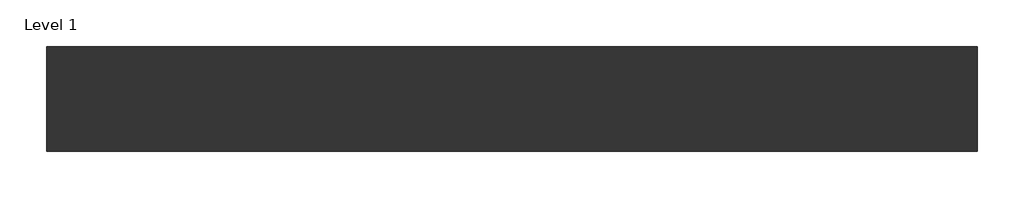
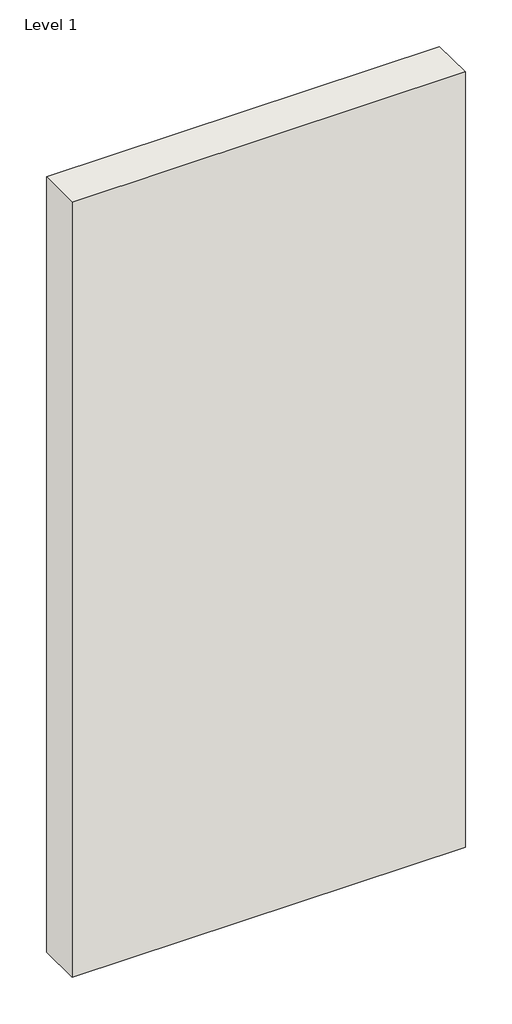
# One storey: 1 wall.
"""IFC4 building model written with IfcOpenShell, lengths in millimetres."""

from ifc_helpers import new_model, si_unit, origin, origin_with_axes, place, context, project, spatial, polyline, outline, extrude, element, save

model = new_model("IFC4")

# Units and contexts
model_context = context("Model", 3, world=origin())
ifc_project = project(units=[si_unit("LENGTHUNIT", "METRE", prefix="MILLI")], contexts=[model_context])

# Site, building, storey
site = spatial("IfcSite", under=ifc_project)
building = spatial("IfcBuilding", under=site)
storey = spatial("IfcBuildingStorey", under=building, Name="Level 1", Elevation=0.0)

# Wall
placement = place(None, origin())
element("IfcWall", 1, ObjectType="Trasdosado Protección contra incendios Placo® PPF 120/600 - EI 90", at=placement, inside=storey, context=model_context, shape_type="SweptSolid", body=[
    extrude(outline(polyline([(-28474.0881276, -65621.8618854), (-29674.0881276, -65621.8618854), (-29674.0881276, -65486.8618854), (-28474.0881276, -65486.8618854), (-28474.0881276, -65621.8618854)])), origin_with_axes(), (0.0, 0.0, 1.0), 2500.0),
])

save(model, "model.ifc")
